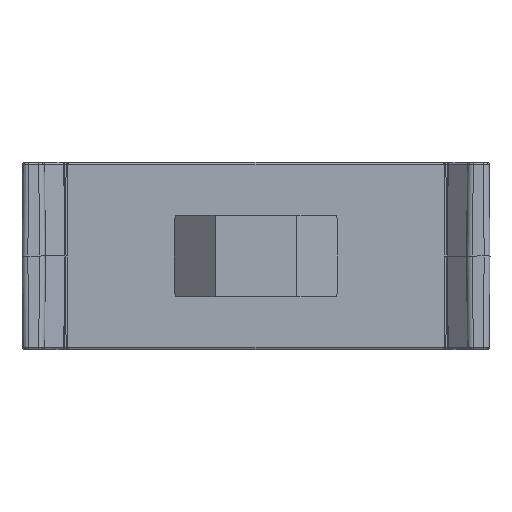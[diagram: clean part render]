
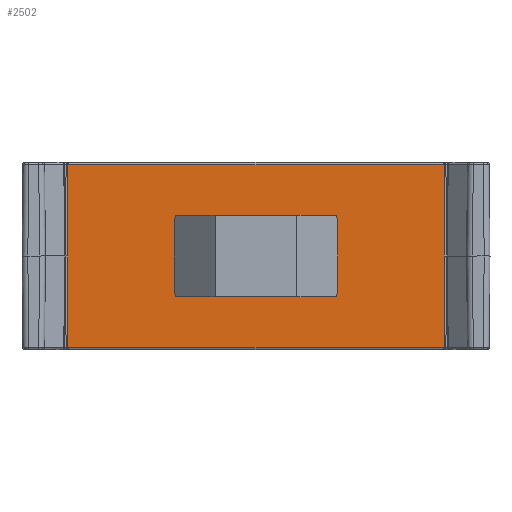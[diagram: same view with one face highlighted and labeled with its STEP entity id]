
A CAD part, front view. The second image highlights one B-rep face of the part: STEP entity #2502.
In plain terms, the highlighted planar face has unit normal (0, -1, 0).
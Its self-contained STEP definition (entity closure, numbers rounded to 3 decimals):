
#17 = EDGE_CURVE ( 'NONE', #4438, #1655, #5126, .T. ) ;
#76 = CARTESIAN_POINT ( 'NONE',  ( 16.1, 0., 8. ) ) ;
#614 = DIRECTION ( 'NONE',  ( 0., 0., -1. ) ) ;
#619 = VECTOR ( 'NONE', #1219, 1000. ) ;
#683 = EDGE_LOOP ( 'NONE', ( #7651, #10571, #2010, #8402, #3693, #9716 ) ) ;
#860 = EDGE_CURVE ( 'NONE', #2497, #8608, #4203, .T. ) ;
#870 = DIRECTION ( 'NONE',  ( 0., 0., 1. ) ) ;
#984 = LINE ( 'NONE', #76, #3108 ) ;
#994 = EDGE_CURVE ( 'NONE', #5160, #4679, #984, .T. ) ;
#999 = DIRECTION ( 'NONE',  ( -1., 0., 0. ) ) ;
#1013 = ORIENTED_EDGE ( 'NONE', *, *, #3291, .F. ) ;
#1183 = EDGE_CURVE ( 'NONE', #3177, #4438, #11831, .T. ) ;
#1219 = DIRECTION ( 'NONE',  ( -1., 0., 0. ) ) ;
#1248 = CARTESIAN_POINT ( 'NONE',  ( -16.1, 0., 7.8 ) ) ;
#1314 = CARTESIAN_POINT ( 'NONE',  ( 4., 0., -3.5 ) ) ;
#1371 = DIRECTION ( 'NONE',  ( 0., 0., 1. ) ) ;
#1540 = ORIENTED_EDGE ( 'NONE', *, *, #4018, .F. ) ;
#1587 = DIRECTION ( 'NONE',  ( 0., 1., 0. ) ) ;
#1654 = VERTEX_POINT ( 'NONE', #11933 ) ;
#1655 = VERTEX_POINT ( 'NONE', #8269 ) ;
#1801 = ORIENTED_EDGE ( 'NONE', *, *, #17, .F. ) ;
#1941 = VERTEX_POINT ( 'NONE', #5354 ) ;
#2010 = ORIENTED_EDGE ( 'NONE', *, *, #6678, .F. ) ;
#2132 = EDGE_CURVE ( 'NONE', #1655, #1941, #3027, .T. ) ;
#2240 = CARTESIAN_POINT ( 'NONE',  ( -16.1, 0., 8. ) ) ;
#2242 = AXIS2_PLACEMENT_3D ( 'NONE', #10080, #7231, #870 ) ;
#2497 = VERTEX_POINT ( 'NONE', #3130 ) ;
#2502 = ADVANCED_FACE ( 'NONE', ( #2562, #5313 ), #11527, .F. ) ;
#2562 = FACE_BOUND ( 'NONE', #4345, .T. ) ;
#2658 = VECTOR ( 'NONE', #614, 1000. ) ;
#2833 = VECTOR ( 'NONE', #10339, 1000. ) ;
#3027 = CIRCLE ( 'NONE', #7708, 3.5 ) ;
#3108 = VECTOR ( 'NONE', #7522, 1000. ) ;
#3130 = CARTESIAN_POINT ( 'NONE',  ( -16.1, 0., 0. ) ) ;
#3177 = VERTEX_POINT ( 'NONE', #5222 ) ;
#3266 = CARTESIAN_POINT ( 'NONE',  ( 0.5, 0., 0. ) ) ;
#3291 = EDGE_CURVE ( 'NONE', #4734, #3177, #4390, .T. ) ;
#3693 = ORIENTED_EDGE ( 'NONE', *, *, #994, .F. ) ;
#4018 = EDGE_CURVE ( 'NONE', #1941, #1654, #8924, .T. ) ;
#4042 = ORIENTED_EDGE ( 'NONE', *, *, #7283, .F. ) ;
#4194 = DIRECTION ( 'NONE',  ( 0., -1., 0. ) ) ;
#4203 = LINE ( 'NONE', #2240, #9529 ) ;
#4345 = EDGE_LOOP ( 'NONE', ( #10664, #1013, #4042, #1540, #10367, #1801 ) ) ;
#4390 = CIRCLE ( 'NONE', #2242, 3.5 ) ;
#4407 = VECTOR ( 'NONE', #8822, 1000. ) ;
#4438 = VERTEX_POINT ( 'NONE', #1314 ) ;
#4616 = VECTOR ( 'NONE', #7295, 1000. ) ;
#4679 = VERTEX_POINT ( 'NONE', #7588 ) ;
#4734 = VERTEX_POINT ( 'NONE', #9630 ) ;
#4842 = LINE ( 'NONE', #10435, #4407 ) ;
#5126 = LINE ( 'NONE', #6227, #11279 ) ;
#5160 = VERTEX_POINT ( 'NONE', #9792 ) ;
#5222 = CARTESIAN_POINT ( 'NONE',  ( -0.5, 0., -3.5 ) ) ;
#5252 = CARTESIAN_POINT ( 'NONE',  ( 16.1, 0., 8. ) ) ;
#5255 = VECTOR ( 'NONE', #7086, 1000. ) ;
#5313 = FACE_OUTER_BOUND ( 'NONE', #683, .T. ) ;
#5354 = CARTESIAN_POINT ( 'NONE',  ( 0.5, 0., 3.5 ) ) ;
#5475 = LINE ( 'NONE', #5528, #11811 ) ;
#5528 = CARTESIAN_POINT ( 'NONE',  ( 16.1, 0., -7.8 ) ) ;
#6163 = DIRECTION ( 'NONE',  ( 0., 0., 1. ) ) ;
#6227 = CARTESIAN_POINT ( 'NONE',  ( 4., 0., 8. ) ) ;
#6335 = CARTESIAN_POINT ( 'NONE',  ( -16.1, 0., -7.8 ) ) ;
#6389 = VERTEX_POINT ( 'NONE', #11140 ) ;
#6678 = EDGE_CURVE ( 'NONE', #11449, #2497, #7484, .T. ) ;
#7086 = DIRECTION ( 'NONE',  ( 1., 0., 0. ) ) ;
#7120 = CARTESIAN_POINT ( 'NONE',  ( 16.1, 0., 3.5 ) ) ;
#7231 = DIRECTION ( 'NONE',  ( 0., -1., 0. ) ) ;
#7283 = EDGE_CURVE ( 'NONE', #1654, #4734, #8144, .T. ) ;
#7295 = DIRECTION ( 'NONE',  ( 0., 0., -1. ) ) ;
#7353 = EDGE_CURVE ( 'NONE', #4679, #11449, #5475, .T. ) ;
#7484 = LINE ( 'NONE', #11071, #2833 ) ;
#7522 = DIRECTION ( 'NONE',  ( 0., 0., -1. ) ) ;
#7588 = CARTESIAN_POINT ( 'NONE',  ( 16.1, 0., -7.8 ) ) ;
#7651 = ORIENTED_EDGE ( 'NONE', *, *, #9108, .F. ) ;
#7708 = AXIS2_PLACEMENT_3D ( 'NONE', #3266, #4194, #1371 ) ;
#7909 = DIRECTION ( 'NONE',  ( 0., 0., 1. ) ) ;
#8144 = LINE ( 'NONE', #9030, #4616 ) ;
#8269 = CARTESIAN_POINT ( 'NONE',  ( 4., 0., 0. ) ) ;
#8402 = ORIENTED_EDGE ( 'NONE', *, *, #7353, .F. ) ;
#8608 = VERTEX_POINT ( 'NONE', #1248 ) ;
#8822 = DIRECTION ( 'NONE',  ( 1., 0., 0. ) ) ;
#8924 = LINE ( 'NONE', #7120, #619 ) ;
#8946 = LINE ( 'NONE', #11834, #2658 ) ;
#9030 = CARTESIAN_POINT ( 'NONE',  ( -4., 0., 8. ) ) ;
#9108 = EDGE_CURVE ( 'NONE', #8608, #6389, #4842, .T. ) ;
#9160 = EDGE_CURVE ( 'NONE', #6389, #5160, #8946, .T. ) ;
#9529 = VECTOR ( 'NONE', #7909, 1000. ) ;
#9613 = AXIS2_PLACEMENT_3D ( 'NONE', #5252, #1587, #6163 ) ;
#9630 = CARTESIAN_POINT ( 'NONE',  ( -4., 0., 0. ) ) ;
#9716 = ORIENTED_EDGE ( 'NONE', *, *, #9160, .F. ) ;
#9792 = CARTESIAN_POINT ( 'NONE',  ( 16.1, 0., 0. ) ) ;
#9919 = DIRECTION ( 'NONE',  ( 0., 0., 1. ) ) ;
#10080 = CARTESIAN_POINT ( 'NONE',  ( -0.5, 0., 0. ) ) ;
#10339 = DIRECTION ( 'NONE',  ( 0., 0., 1. ) ) ;
#10367 = ORIENTED_EDGE ( 'NONE', *, *, #2132, .F. ) ;
#10435 = CARTESIAN_POINT ( 'NONE',  ( 16.1, 0., 7.8 ) ) ;
#10571 = ORIENTED_EDGE ( 'NONE', *, *, #860, .F. ) ;
#10664 = ORIENTED_EDGE ( 'NONE', *, *, #1183, .F. ) ;
#11071 = CARTESIAN_POINT ( 'NONE',  ( -16.1, 0., 8. ) ) ;
#11140 = CARTESIAN_POINT ( 'NONE',  ( 16.1, 0., 7.8 ) ) ;
#11279 = VECTOR ( 'NONE', #9919, 1000. ) ;
#11449 = VERTEX_POINT ( 'NONE', #6335 ) ;
#11527 = PLANE ( 'NONE',  #9613 ) ;
#11709 = CARTESIAN_POINT ( 'NONE',  ( 16.1, 0., -3.5 ) ) ;
#11811 = VECTOR ( 'NONE', #999, 1000. ) ;
#11831 = LINE ( 'NONE', #11709, #5255 ) ;
#11834 = CARTESIAN_POINT ( 'NONE',  ( 16.1, 0., 8. ) ) ;
#11933 = CARTESIAN_POINT ( 'NONE',  ( -4., 0., 3.5 ) ) ;
